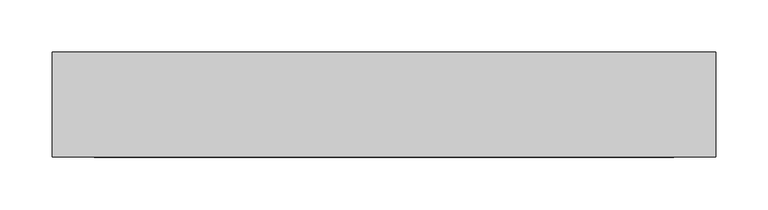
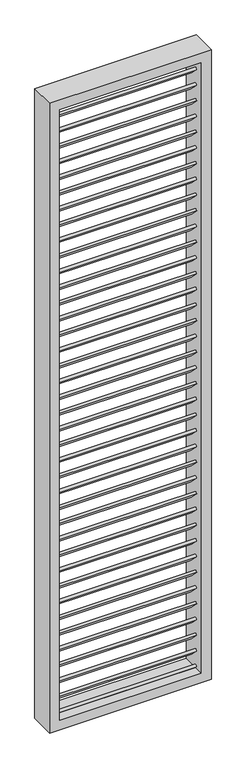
"""IFC4 building model written with IfcOpenShell, lengths in millimetres: plate geometry, 幕墙嵌板-百叶 : 幕墙嵌板-百叶."""

from ifc_helpers import new_model, si_unit, frame, origin, place, context, project, spatial, polyline, outline, extrude, source, transform, mapped, element, save


def plate_be6fd167(model_context):
    return source(origin(), model_context, "Body", "SweptSolid", [
        extrude(outline(polyline([(0.0, -50.0), (0.0, 0.0), (552.05, 0.0), (552.05, -50.0), (0.0, -50.0)])), frame((276.025, -21.2132034, 2514.2703408), z_axis=(0.0, 0.7071067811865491, 0.7071067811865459), x_axis=(-1.0, 0.0, 0.0)), (0.0, 0.0, 1.0), 10.0),
        extrude(outline(polyline([(0.0, -50.0), (0.0, 0.0), (552.05, 0.0), (552.05, -50.0), (0.0, -50.0)])), frame((276.025, -21.2132034, 2449.3985459), z_axis=(0.0, 0.7071067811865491, 0.7071067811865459), x_axis=(-1.0, 0.0, 0.0)), (0.0, 0.0, 1.0), 10.0),
        extrude(outline(polyline([(0.0, -50.0), (0.0, 0.0), (552.05, 0.0), (552.05, -50.0), (0.0, -50.0)])), frame((276.025, -21.2132034, 2384.526751), z_axis=(0.0, 0.7071067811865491, 0.7071067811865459), x_axis=(-1.0, 0.0, 0.0)), (0.0, 0.0, 1.0), 10.0),
        extrude(outline(polyline([(0.0, -49.9999999), (0.0, 0.0), (552.05, 0.0), (552.05, -49.9999999), (0.0, -49.9999999)])), frame((276.025, -21.2132034, 2319.6549561), z_axis=(0.0, 0.7071067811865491, 0.7071067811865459), x_axis=(-1.0, 0.0, 0.0)), (0.0, 0.0, 1.0), 10.0),
        extrude(outline(polyline([(0.0, -50.0), (0.0, 0.0), (552.05, 0.0), (552.05, -50.0), (0.0, -50.0)])), frame((276.025, -21.2132034, 2254.7831613), z_axis=(0.0, 0.7071067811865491, 0.7071067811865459), x_axis=(-1.0, 0.0, 0.0)), (0.0, 0.0, 1.0), 10.0),
        extrude(outline(polyline([(0.0, -50.0), (0.0, 0.0), (552.05, 0.0), (552.05, -50.0), (0.0, -50.0)])), frame((276.025, -21.2132034, 2189.9113664), z_axis=(0.0, 0.7071067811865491, 0.7071067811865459), x_axis=(-1.0, 0.0, 0.0)), (0.0, 0.0, 1.0), 10.0),
        extrude(outline(polyline([(0.0, -49.9999999), (0.0, 0.0), (552.05, 0.0), (552.05, -49.9999999), (0.0, -49.9999999)])), frame((276.025, -21.2132034, 2125.0395715), z_axis=(0.0, 0.7071067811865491, 0.7071067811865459), x_axis=(-1.0, 0.0, 0.0)), (0.0, 0.0, 1.0), 10.0),
        extrude(outline(polyline([(0.0, -49.9999999), (0.0, 0.0), (552.05, 0.0), (552.05, -49.9999999), (0.0, -49.9999999)])), frame((276.025, -21.2132034, 2060.1677766), z_axis=(0.0, 0.7071067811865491, 0.7071067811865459), x_axis=(-1.0, 0.0, 0.0)), (0.0, 0.0, 1.0), 10.0),
        extrude(outline(polyline([(0.0, -50.0), (0.0, 0.0), (552.05, 0.0), (552.05, -50.0), (0.0, -50.0)])), frame((276.025, -21.2132034, 1995.2959818), z_axis=(0.0, 0.7071067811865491, 0.7071067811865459), x_axis=(-1.0, 0.0, 0.0)), (0.0, 0.0, 1.0), 10.0),
        extrude(outline(polyline([(0.0, -50.0), (0.0, 0.0), (552.05, 0.0), (552.05, -50.0), (0.0, -50.0)])), frame((276.025, -21.2132034, 1930.4241869), z_axis=(0.0, 0.7071067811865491, 0.7071067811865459), x_axis=(-1.0, 0.0, 0.0)), (0.0, 0.0, 1.0), 10.0),
        extrude(outline(polyline([(0.0, -49.9999999), (0.0, 0.0), (552.05, 0.0), (552.05, -49.9999999), (0.0, -49.9999999)])), frame((276.025, -21.2132034, 1865.552392), z_axis=(0.0, 0.7071067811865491, 0.7071067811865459), x_axis=(-1.0, 0.0, 0.0)), (0.0, 0.0, 1.0), 10.0),
        extrude(outline(polyline([(0.0, -50.0), (0.0, 0.0), (552.05, 0.0), (552.05, -50.0), (0.0, -50.0)])), frame((276.025, -21.2132034, 1800.6805972), z_axis=(0.0, 0.7071067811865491, 0.7071067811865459), x_axis=(-1.0, 0.0, 0.0)), (0.0, 0.0, 1.0), 10.0),
        extrude(outline(polyline([(0.0, -50.0), (0.0, 0.0), (552.05, 0.0), (552.05, -50.0), (0.0, -50.0)])), frame((276.025, -21.2132034, 1735.8088023), z_axis=(0.0, 0.7071067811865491, 0.7071067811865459), x_axis=(-1.0, 0.0, 0.0)), (0.0, 0.0, 1.0), 10.0),
        extrude(outline(polyline([(0.0, -49.9999999), (0.0, 0.0), (552.05, 0.0), (552.05, -49.9999999), (0.0, -49.9999999)])), frame((276.025, -21.2132034, 1670.9370074), z_axis=(0.0, 0.7071067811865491, 0.7071067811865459), x_axis=(-1.0, 0.0, 0.0)), (0.0, 0.0, 1.0), 10.0),
        extrude(outline(polyline([(0.0, -49.9999999), (0.0, 0.0), (552.05, 0.0), (552.05, -49.9999999), (0.0, -49.9999999)])), frame((276.025, -21.2132034, 1606.0652125), z_axis=(0.0, 0.7071067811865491, 0.7071067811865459), x_axis=(-1.0, 0.0, 0.0)), (0.0, 0.0, 1.0), 10.0),
        extrude(outline(polyline([(0.0, -50.0), (0.0, 0.0), (552.05, 0.0), (552.05, -50.0), (0.0, -50.0)])), frame((276.025, -21.2132034, 1541.1934177), z_axis=(0.0, 0.7071067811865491, 0.7071067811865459), x_axis=(-1.0, 0.0, 0.0)), (0.0, 0.0, 1.0), 10.0),
        extrude(outline(polyline([(0.0, -50.0), (0.0, 0.0), (552.05, 0.0), (552.05, -50.0), (0.0, -50.0)])), frame((276.025, -21.2132034, 1476.3216228), z_axis=(0.0, 0.7071067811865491, 0.7071067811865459), x_axis=(-1.0, 0.0, 0.0)), (0.0, 0.0, 1.0), 10.0),
        extrude(outline(polyline([(0.0, -49.9999999), (0.0, 0.0), (552.05, 0.0), (552.05, -49.9999999), (0.0, -49.9999999)])), frame((276.025, -21.2132034, 1411.4498279), z_axis=(0.0, 0.7071067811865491, 0.7071067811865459), x_axis=(-1.0, 0.0, 0.0)), (0.0, 0.0, 1.0), 10.0),
        extrude(outline(polyline([(0.0, -50.0), (0.0, 0.0), (552.05, 0.0), (552.05, -50.0), (0.0, -50.0)])), frame((276.025, -21.2132034, 1346.5780331), z_axis=(0.0, 0.7071067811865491, 0.7071067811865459), x_axis=(-1.0, 0.0, 0.0)), (0.0, 0.0, 1.0), 10.0),
        extrude(outline(polyline([(0.0, -50.0), (0.0, 0.0), (552.05, 0.0), (552.05, -50.0), (0.0, -50.0)])), frame((276.025, -21.2132034, 1281.7062382), z_axis=(0.0, 0.7071067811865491, 0.7071067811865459), x_axis=(-1.0, 0.0, 0.0)), (0.0, 0.0, 1.0), 10.0),
        extrude(outline(polyline([(0.0, -49.9999999), (0.0, 0.0), (552.05, 0.0), (552.05, -49.9999999), (0.0, -49.9999999)])), frame((276.025, -21.2132034, 1216.8344433), z_axis=(0.0, 0.7071067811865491, 0.7071067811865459), x_axis=(-1.0, 0.0, 0.0)), (0.0, 0.0, 1.0), 10.0),
        extrude(outline(polyline([(0.0, -49.9999999), (0.0, 0.0), (552.05, 0.0), (552.05, -49.9999999), (0.0, -49.9999999)])), frame((276.025, -21.2132034, 1151.9626484), z_axis=(0.0, 0.7071067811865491, 0.7071067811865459), x_axis=(-1.0, 0.0, 0.0)), (0.0, 0.0, 1.0), 10.0),
        extrude(outline(polyline([(0.0, -50.0), (0.0, 0.0), (552.05, 0.0), (552.05, -50.0), (0.0, -50.0)])), frame((276.025, -21.2132034, 1087.0908536), z_axis=(0.0, 0.7071067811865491, 0.7071067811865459), x_axis=(-1.0, 0.0, 0.0)), (0.0, 0.0, 1.0), 10.0),
        extrude(outline(polyline([(0.0, -50.0), (0.0, 0.0), (552.05, 0.0), (552.05, -50.0), (0.0, -50.0)])), frame((276.025, -21.2132034, 1022.2190587), z_axis=(0.0, 0.7071067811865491, 0.7071067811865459), x_axis=(-1.0, 0.0, 0.0)), (0.0, 0.0, 1.0), 10.0),
        extrude(outline(polyline([(0.0, -49.9999999), (0.0, 0.0), (552.05, 0.0), (552.05, -49.9999999), (0.0, -49.9999999)])), frame((276.025, -21.2132034, 957.3472638), z_axis=(0.0, 0.7071067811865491, 0.7071067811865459), x_axis=(-1.0, 0.0, 0.0)), (0.0, 0.0, 1.0), 10.0),
        extrude(outline(polyline([(0.0, -50.0), (0.0, 0.0), (552.05, 0.0), (552.05, -50.0), (0.0, -50.0)])), frame((276.025, -21.2132034, 892.475469), z_axis=(0.0, 0.7071067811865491, 0.7071067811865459), x_axis=(-1.0, 0.0, 0.0)), (0.0, 0.0, 1.0), 10.0),
        extrude(outline(polyline([(0.0, -50.0), (0.0, 0.0), (552.05, 0.0), (552.05, -50.0), (0.0, -50.0)])), frame((276.025, -21.2132034, 827.6036741), z_axis=(0.0, 0.7071067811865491, 0.7071067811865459), x_axis=(-1.0, 0.0, 0.0)), (0.0, 0.0, 1.0), 10.0),
        extrude(outline(polyline([(0.0, -49.9999999), (0.0, 0.0), (552.05, 0.0), (552.05, -49.9999999), (0.0, -49.9999999)])), frame((276.025, -21.2132034, 762.7318792), z_axis=(0.0, 0.7071067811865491, 0.7071067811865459), x_axis=(-1.0, 0.0, 0.0)), (0.0, 0.0, 1.0), 10.0),
        extrude(outline(polyline([(0.0, -49.9999999), (0.0, 0.0), (552.05, 0.0), (552.05, -49.9999999), (0.0, -49.9999999)])), frame((276.025, -21.2132034, 697.8600843), z_axis=(0.0, 0.7071067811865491, 0.7071067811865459), x_axis=(-1.0, 0.0, 0.0)), (0.0, 0.0, 1.0), 10.0),
        extrude(outline(polyline([(0.0, -50.0), (0.0, 0.0), (552.05, 0.0), (552.05, -50.0), (0.0, -50.0)])), frame((276.025, -21.2132034, 632.9882895), z_axis=(0.0, 0.7071067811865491, 0.7071067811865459), x_axis=(-1.0, 0.0, 0.0)), (0.0, 0.0, 1.0), 10.0),
        extrude(outline(polyline([(0.0, -50.0), (0.0, 0.0), (552.05, 0.0), (552.05, -50.0), (0.0, -50.0)])), frame((276.025, -21.2132034, 568.1164946), z_axis=(0.0, 0.7071067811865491, 0.7071067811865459), x_axis=(-1.0, 0.0, 0.0)), (0.0, 0.0, 1.0), 10.0),
        extrude(outline(polyline([(0.0, -49.9999999), (0.0, 0.0), (552.05, 0.0), (552.05, -49.9999999), (0.0, -49.9999999)])), frame((276.025, -21.2132034, 503.2446997), z_axis=(0.0, 0.7071067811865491, 0.7071067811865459), x_axis=(-1.0, 0.0, 0.0)), (0.0, 0.0, 1.0), 10.0),
        extrude(outline(polyline([(0.0, -50.0), (0.0, 0.0), (552.05, 0.0), (552.05, -50.0), (0.0, -50.0)])), frame((276.025, -21.2132034, 438.3729049), z_axis=(0.0, 0.7071067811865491, 0.7071067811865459), x_axis=(-1.0, 0.0, 0.0)), (0.0, 0.0, 1.0), 10.0),
        extrude(outline(polyline([(0.0, -50.0), (0.0, 0.0), (552.05, 0.0), (552.05, -50.0), (0.0, -50.0)])), frame((276.025, -21.2132034, 373.50111), z_axis=(0.0, 0.7071067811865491, 0.7071067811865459), x_axis=(-1.0, 0.0, 0.0)), (0.0, 0.0, 1.0), 10.0),
        extrude(outline(polyline([(0.0, -49.9999999), (0.0, 0.0), (552.05, 0.0), (552.05, -49.9999999), (0.0, -49.9999999)])), frame((276.025, -21.2132034, 308.6293151), z_axis=(0.0, 0.7071067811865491, 0.7071067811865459), x_axis=(-1.0, 0.0, 0.0)), (0.0, 0.0, 1.0), 10.0),
        extrude(outline(polyline([(0.0, -49.9999999), (0.0, 0.0), (552.05, 0.0), (552.05, -49.9999999), (0.0, -49.9999999)])), frame((276.025, -21.2132034, 243.7575202), z_axis=(0.0, 0.7071067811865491, 0.7071067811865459), x_axis=(-1.0, 0.0, 0.0)), (0.0, 0.0, 1.0), 10.0),
        extrude(outline(polyline([(0.0, -50.0), (0.0, 0.0), (552.05, 0.0), (552.05, -50.0), (0.0, -50.0)])), frame((276.025, -21.2132034, 178.8857254), z_axis=(0.0, 0.7071067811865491, 0.7071067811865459), x_axis=(-1.0, 0.0, 0.0)), (0.0, 0.0, 1.0), 10.0),
        extrude(outline(polyline([(0.0, -50.0), (0.0, 0.0), (552.05, 0.0), (552.05, -50.0), (0.0, -50.0)])), frame((276.025, -21.2132034, 114.0139305), z_axis=(0.0, 0.7071067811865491, 0.7071067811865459), x_axis=(-1.0, 0.0, 0.0)), (0.0, 0.0, 1.0), 10.0),
        extrude(outline(polyline([(0.0, -49.9999999), (0.0, 0.0), (552.05, 0.0), (552.05, -49.9999999), (0.0, -49.9999999)])), frame((276.025, -21.2132034, 2579.1421356), z_axis=(0.0, 0.7071067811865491, 0.7071067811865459), x_axis=(-1.0, 0.0, 0.0)), (0.0, 0.0, 1.0), 10.0),
        extrude(outline(polyline([(0.0, -49.9999999), (0.0, 0.0), (552.05, 0.0), (552.05, -49.9999999), (0.0, -49.9999999)])), frame((276.025, -21.2132034, 49.1421356), z_axis=(0.0, 0.7071067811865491, 0.7071067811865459), x_axis=(-1.0, 0.0, 0.0)), (0.0, 0.0, 1.0), 10.0),
        extrude(outline(polyline([(0.0, -316.025), (0.0, 316.025), (2600.0, 316.025), (2600.0, -316.025), (0.0, -316.025)]), holes=[polyline([(2560.0, -276.025), (2560.0, 276.025), (40.0, 276.025), (40.0, -276.025), (2560.0, -276.025)])]), frame((0.0, -50.0, 0.0), z_axis=(0.0, 1.0, 0.0), x_axis=(0.0, 0.0, 1.0)), (0.0, 0.0, 1.0), 100.0),
    ])


if __name__ == "__main__":
    model = new_model("IFC4")
    model_context = context("Model", 3, world=origin())
    ifc_project = project(units=[si_unit("LENGTHUNIT", "METRE", prefix="MILLI")], contexts=[model_context])
    site = spatial("IfcSite", under=ifc_project)
    building = spatial("IfcBuilding", under=site)
    placement = place(None, origin())
    plate_shape = plate_be6fd167(model_context)
    element("IfcPlate", 1, ObjectType="幕墙嵌板-百叶 : 幕墙嵌板-百叶", at=placement, inside=building, context=model_context, shape_type="MappedRepresentation", body=[
        mapped(plate_shape, transform((0.0, 0.0, 0.0), x_axis=(1.0, 0.0, 0.0), y_axis=(0.0, 1.0, 0.0), z_axis=(0.0, 0.0, 1.0))),
    ])
    save(model, "model.ifc")
